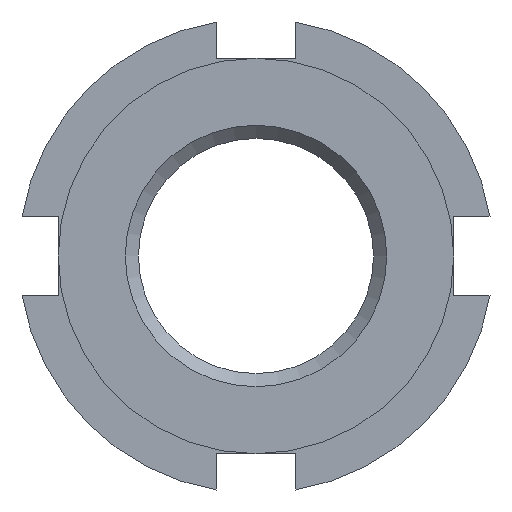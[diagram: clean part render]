
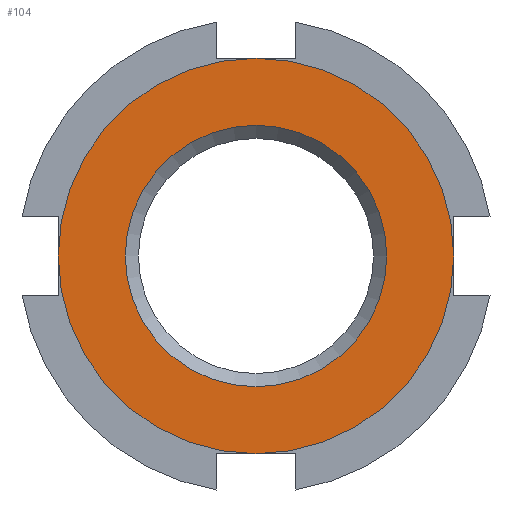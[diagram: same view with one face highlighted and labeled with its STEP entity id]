
A CAD part, left-side view. The second image highlights one B-rep face of the part: STEP entity #104.
In plain terms, the highlighted planar face has unit normal (-1, 0, 0).
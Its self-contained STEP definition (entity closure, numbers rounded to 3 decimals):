
#104 = ADVANCED_FACE( '', ( #177, #178 ), #179, .F. );
#177 = FACE_OUTER_BOUND( '', #255, .T. );
#178 = FACE_BOUND( '', #256, .T. );
#179 = PLANE( '', #257 );
#255 = EDGE_LOOP( '', ( #475 ) );
#256 = EDGE_LOOP( '', ( #476 ) );
#257 = AXIS2_PLACEMENT_3D( '', #477, #478, #479 );
#475 = ORIENTED_EDGE( '', *, *, #570, .F. );
#476 = ORIENTED_EDGE( '', *, *, #550, .T. );
#477 = CARTESIAN_POINT( '', ( 0., 0., 0. ) );
#478 = DIRECTION( '', ( 1., 0., 0. ) );
#479 = DIRECTION( '', ( 0., 0., -1. ) );
#550 = EDGE_CURVE( '', #656, #656, #657, .T. );
#570 = EDGE_CURVE( '', #684, #684, #685, .T. );
#656 = VERTEX_POINT( '', #829 );
#657 = CIRCLE( '', #830, 4.959 );
#684 = VERTEX_POINT( '', #865 );
#685 = CIRCLE( '', #866, 7.5 );
#829 = CARTESIAN_POINT( '', ( 0., 0., -4.959 ) );
#830 = AXIS2_PLACEMENT_3D( '', #947, #948, #949 );
#865 = CARTESIAN_POINT( '', ( 0., 0., -7.5 ) );
#866 = AXIS2_PLACEMENT_3D( '', #994, #995, #996 );
#947 = CARTESIAN_POINT( '', ( 0., 0., 0. ) );
#948 = DIRECTION( '', ( 1., 0., 0. ) );
#949 = DIRECTION( '', ( 0., 0., -1. ) );
#994 = CARTESIAN_POINT( '', ( 0., 0., 0. ) );
#995 = DIRECTION( '', ( 1., 0., 0. ) );
#996 = DIRECTION( '', ( 0., 0., -1. ) );
